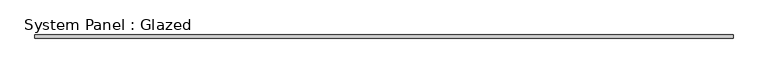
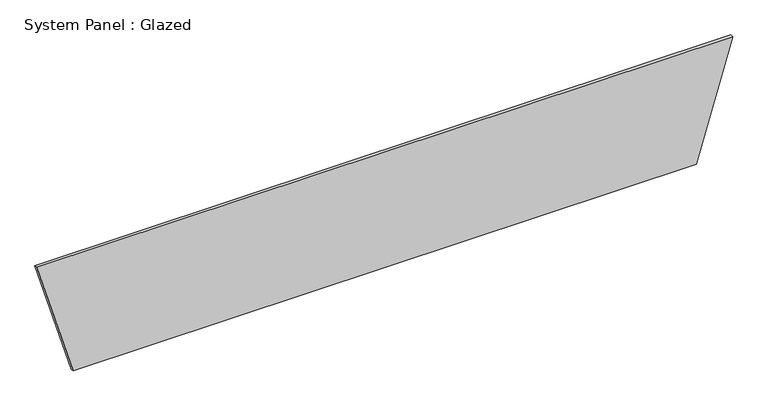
"""IFC4 building model written with IfcOpenShell, lengths in millimetres: plate geometry, System Panel : Glazed."""

from ifc_helpers import new_model, si_unit, frame, origin, place, context, project, spatial, polyline, outline, extrude, source, transform, mapped, element, save


def system_panel_glazed_74456a48(model_context):
    return source(origin(), model_context, "Body", "SweptSolid", [
        extrude(outline(polyline([(0.0, -2486.7552358), (0.0, 2486.7552358), (974.525677, 2777.4795755), (974.525677, -2777.4795755), (0.0, -2486.7552358)])), frame((0.0, -49.5, 0.0), z_axis=(0.0, 1.0, 0.0), x_axis=(0.0, 0.0, 1.0)), (0.0, 0.0, 1.0), 25.0),
    ])


if __name__ == "__main__":
    model = new_model("IFC4")
    model_context = context("Model", 3, world=origin())
    ifc_project = project(units=[si_unit("LENGTHUNIT", "METRE", prefix="MILLI")], contexts=[model_context])
    site = spatial("IfcSite", under=ifc_project)
    building = spatial("IfcBuilding", under=site)
    placement = place(None, origin())
    system_panel_glazed_shape = system_panel_glazed_74456a48(model_context)
    element("IfcPlate", 1, ObjectType="System Panel : Glazed", at=placement, inside=building, context=model_context, shape_type="MappedRepresentation", body=[
        mapped(system_panel_glazed_shape, transform((0.0, 0.0, 0.0), x_axis=(1.0, 0.0, 0.0), y_axis=(0.0, 1.0, 0.0), z_axis=(0.0, 0.0, 1.0))),
    ])
    save(model, "model.ifc")
